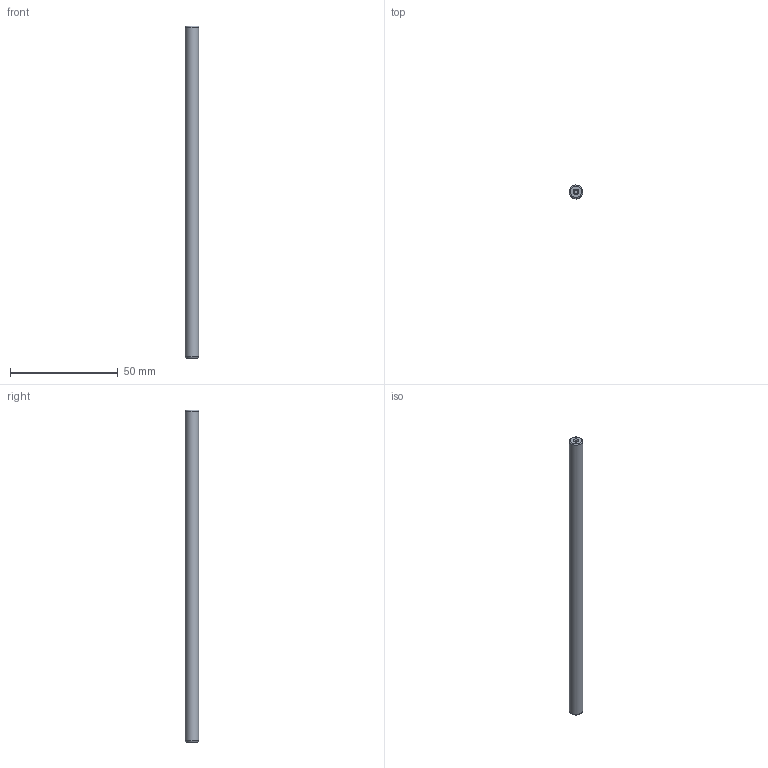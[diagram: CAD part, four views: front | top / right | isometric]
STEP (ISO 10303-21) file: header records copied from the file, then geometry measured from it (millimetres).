
FILE_DESCRIPTION(/* description */ (''),/* implementation_level */ '2;1');
FILE_NAME(/* name */ 'LM1247-080-Rod.stp',/* time_stamp */ '2017-09-06T14:02:04+02:00',/* author */ ('DR. FRITZ FAULHABER GmbH & Co. KG'),/* organization */ ('DR. FRITZ FAULHABER GmbH & Co. KG'),/* preprocessor_version */ 'ST-DEVELOPER v16',/* originating_system */ 'SIEMENS PLM Software NX 10.0',/* authorisation */ '');
FILE_SCHEMA (('AUTOMOTIVE_DESIGN { 1 0 10303 214 3 1 1 1 }'));
Length unit declared in the file: millimetre
Products named in the file (1): Alle_Motoren
Bounding box: 6.31 x 6.31 x 154 mm (x, y, z)
Volume: 4799.6 mm3; surface area: 3134.7 mm2
Topology: 1 solids, 1 shells, 11 faces, 20 edges, 13 vertices
Faces by surface type: plane 4, cylinder 3, cone 2, torus 2
Full cylindrical faces by diameter (mm): 1.6 x2, 6.31 x1
Entity records: 238 total; most frequent: DIRECTION 44, CARTESIAN_POINT 32, AXIS2_PLACEMENT_3D 22, EDGE_LOOP 20, ORIENTED_EDGE 20, FACE_BOUND 18, ADVANCED_FACE 11, VERTEX_POINT 10
